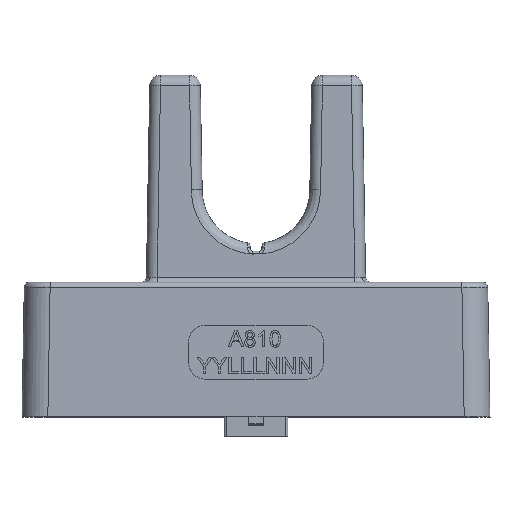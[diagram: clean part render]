
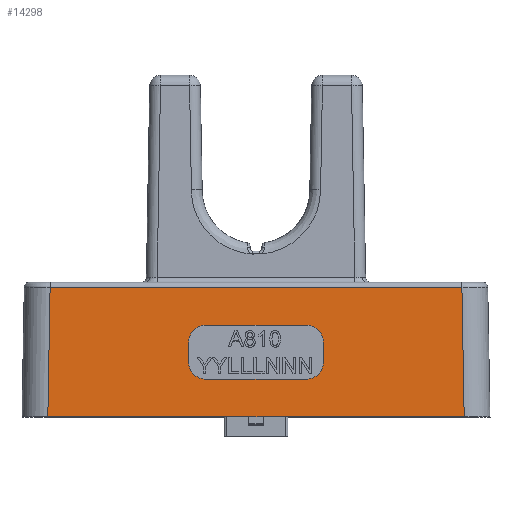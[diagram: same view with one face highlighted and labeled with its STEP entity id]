
A CAD part, top view. The second image highlights one B-rep face of the part: STEP entity #14298.
In plain terms, the highlighted planar face has unit normal (0, 0.018, 1).
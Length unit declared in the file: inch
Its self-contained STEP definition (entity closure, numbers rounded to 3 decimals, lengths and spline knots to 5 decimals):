
#130 = CARTESIAN_POINT ( 'NONE',  ( 0.77276, -0.47135, 0.3434 ) ) ;
#599 = LINE ( 'NONE', #18642, #17610 ) ;
#708 = EDGE_CURVE ( 'NONE', #2711, #1443, #9677, .T. ) ;
#1443 = VERTEX_POINT ( 'NONE', #16150 ) ;
#1514 = EDGE_CURVE ( 'NONE', #1443, #7926, #4058, .T. ) ;
#1877 = CARTESIAN_POINT ( 'NONE',  ( -0.76454, -0.01965, 0.33552 ) ) ;
#2362 = CARTESIAN_POINT ( 'NONE',  ( -0.77329, -0.50167, 0.34393 ) ) ;
#2633 = PLANE ( 'NONE',  #17694 ) ;
#2711 = VERTEX_POINT ( 'NONE', #4206 ) ;
#2792 = EDGE_LOOP ( 'NONE', ( #19030, #8204, #6159, #9952 ) ) ;
#4058 = LINE ( 'NONE', #2362, #14734 ) ;
#4206 = CARTESIAN_POINT ( 'NONE',  ( 0.76488, -0.01965, 0.33552 ) ) ;
#4524 = CARTESIAN_POINT ( 'NONE',  ( -0.86925, -0.5, 0.3439 ) ) ;
#5029 = DIRECTION ( 'NONE',  ( -0.017, 1., -0.017 ) ) ;
#6028 = CARTESIAN_POINT ( 'NONE',  ( -0.77326, -0.5, 0.3439 ) ) ;
#6159 = ORIENTED_EDGE ( 'NONE', *, *, #1514, .T. ) ;
#6970 = DIRECTION ( 'NONE',  ( -0.017, -1., 0.017 ) ) ;
#7020 = CARTESIAN_POINT ( 'NONE',  ( 0.77326, -0.5, 0.3439 ) ) ;
#7659 = VECTOR ( 'NONE', #8278, 39.37008 ) ;
#7926 = VERTEX_POINT ( 'NONE', #6028 ) ;
#8204 = ORIENTED_EDGE ( 'NONE', *, *, #708, .T. ) ;
#8278 = DIRECTION ( 'NONE',  ( -1., 0., 0. ) ) ;
#9677 = LINE ( 'NONE', #1877, #7659 ) ;
#9952 = ORIENTED_EDGE ( 'NONE', *, *, #17080, .F. ) ;
#10518 = DIRECTION ( 'NONE',  ( 0., 0.017, 1. ) ) ;
#12127 = DIRECTION ( 'NONE',  ( 0., -1., 0.017 ) ) ;
#12997 = VERTEX_POINT ( 'NONE', #7020 ) ;
#13424 = FACE_OUTER_BOUND ( 'NONE', #2792, .T. ) ;
#14298 = ADVANCED_FACE ( 'NONE', ( #13424 ), #2633, .T. ) ;
#14734 = VECTOR ( 'NONE', #6970, 39.37008 ) ;
#15446 = LINE ( 'NONE', #130, #15819 ) ;
#15536 = DIRECTION ( 'NONE',  ( -1., 0., 0. ) ) ;
#15819 = VECTOR ( 'NONE', #5029, 39.37008 ) ;
#16150 = CARTESIAN_POINT ( 'NONE',  ( -0.76488, -0.01965, 0.33552 ) ) ;
#17080 = EDGE_CURVE ( 'NONE', #12997, #7926, #599, .T. ) ;
#17610 = VECTOR ( 'NONE', #15536, 39.37008 ) ;
#17694 = AXIS2_PLACEMENT_3D ( 'NONE', #4524, #10518, #12127 ) ;
#18642 = CARTESIAN_POINT ( 'NONE',  ( -0.86925, -0.5, 0.3439 ) ) ;
#19030 = ORIENTED_EDGE ( 'NONE', *, *, #19066, .T. ) ;
#19066 = EDGE_CURVE ( 'NONE', #12997, #2711, #15446, .T. ) ;
